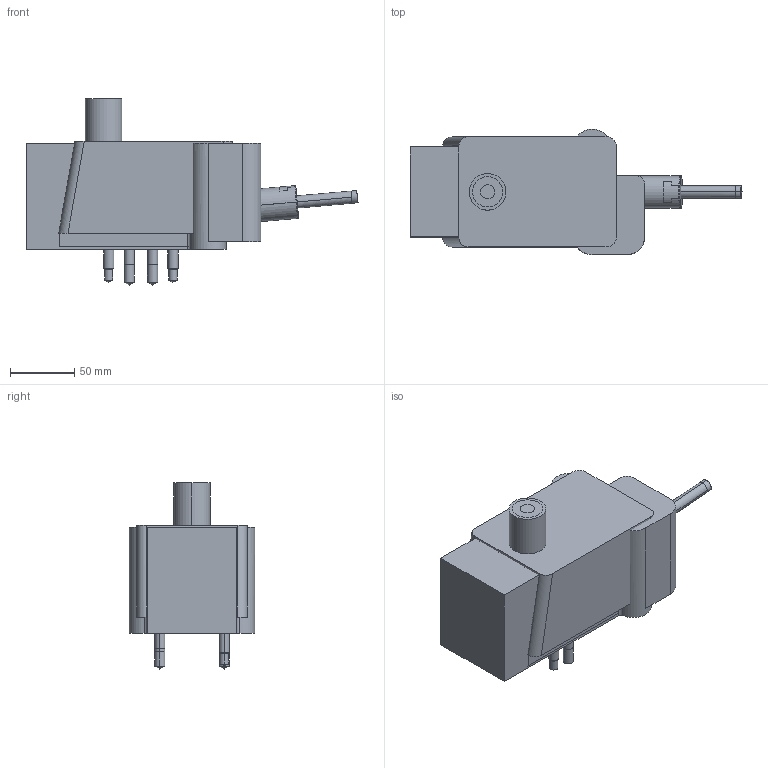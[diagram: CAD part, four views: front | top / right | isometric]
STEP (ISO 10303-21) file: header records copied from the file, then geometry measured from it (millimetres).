
FILE_DESCRIPTION((' '),'2;1');
FILE_NAME( 'EZ-05-S-L.stp', '2024-07-17T08:01:43', (' '), ('--- Datakit www.datakit.com---'), ' Datakit CrossCadWare V2020.4 Oct 21 2020', 'Export from SolidLink (Hexagon Production Software)', ' ');
FILE_SCHEMA(('AP242_MANAGED_MODEL_BASED_3D_ENGINEERING_MIM_LF { 1 0 10303 442 1 1 4 }'));
Length unit declared in the file: millimetre
Products named in the file (136): Workplanes; 1700840724; 1700503621; 1679433680; 1679433679; 1679433678; 1679433677; 1679433676; 1679433671; 1679433663; 1679433656; 1679433655; 1679433654; 1679433651; 1679433649; 1700492997; 1701203407; 1701283389; 1721290624; 1721294061; 1721294062; 1721294063; 1721294064; 1721294065; 1721294066; 1721294067; 1721294068; 1721294069; 1721294070; 1721294071; 1721294072; 1721294073; 1721294074; 1721294075; 1721294076; 1721294077; 1721294078; 1721294079; 1721294080; 1721294081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
Bounding box: 258.32 x 97.75 x 144.89 mm (x, y, z)
Volume: 2641959.8 mm3; surface area: 234616.6 mm2
Topology: 17 solids, 18 shells, 451 faces, 1303 edges, 1112 vertices
Faces by surface type: cylinder 182, plane 153, cone 104, sphere 6, torus 4, bspline 2
Entity records: 18179 total; most frequent: CARTESIAN_POINT 4655, DIRECTION 2717, ORIENTED_EDGE 2122, AXIS2_PLACEMENT_3D 1074, EDGE_CURVE 1067, VERTEX_POINT 684, VECTOR 569, LINE 569
